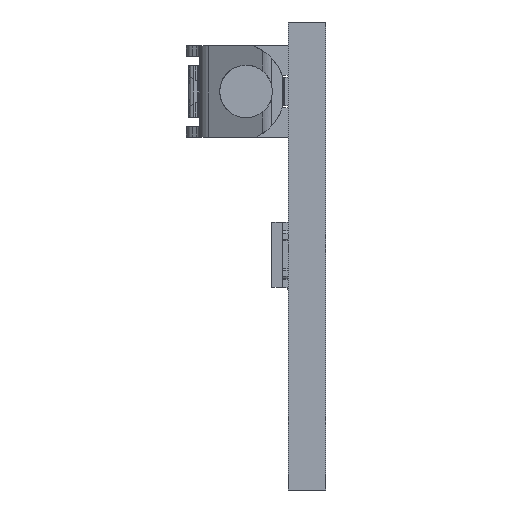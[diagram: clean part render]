
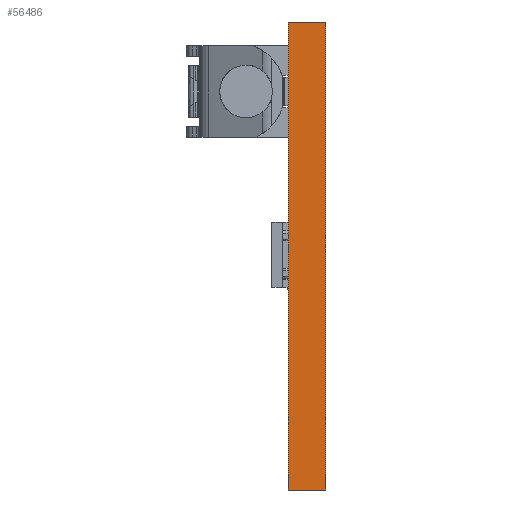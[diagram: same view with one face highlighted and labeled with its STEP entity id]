
A CAD part, left-side view. The second image highlights one B-rep face of the part: STEP entity #56486.
In plain terms, the highlighted planar face has unit normal (-1, 0, 0).
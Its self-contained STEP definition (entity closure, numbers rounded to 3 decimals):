
#6641=DIRECTION('',(0.,0.,1.));
#6642=VECTOR('',#6641,20.);
#6643=CARTESIAN_POINT('',(-160.287,0.,-10.));
#6644=LINE('',#6643,#6642);
#20747=DIRECTION('',(0.,0.,1.));
#20748=VECTOR('',#20747,20.);
#20749=CARTESIAN_POINT('',(-160.287,-1.6,-10.));
#20750=LINE('',#20749,#20748);
#20907=DIRECTION('',(0.,-1.,0.));
#20908=VECTOR('',#20907,1.6);
#20909=CARTESIAN_POINT('',(-160.287,0.,10.));
#20910=LINE('',#20909,#20908);
#20939=DIRECTION('',(0.,-1.,0.));
#20940=VECTOR('',#20939,1.6);
#20941=CARTESIAN_POINT('',(-160.287,0.,-10.));
#20942=LINE('',#20941,#20940);
#22757=CARTESIAN_POINT('',(-160.287,0.,-10.));
#22758=CARTESIAN_POINT('',(-160.287,0.,10.));
#22759=VERTEX_POINT('',#22757);
#22760=VERTEX_POINT('',#22758);
#22765=CARTESIAN_POINT('',(-160.287,-1.6,-10.));
#22766=CARTESIAN_POINT('',(-160.287,-1.6,10.));
#22767=VERTEX_POINT('',#22765);
#22768=VERTEX_POINT('',#22766);
#56474=CARTESIAN_POINT('',(-160.287,0.,-10.));
#56475=DIRECTION('',(-1.,0.,0.));
#56476=DIRECTION('',(0.,0.,1.));
#56477=AXIS2_PLACEMENT_3D('',#56474,#56475,#56476);
#56478=PLANE('',#56477);
#56479=ORIENTED_EDGE('',*,*,#28128,.T.);
#56480=ORIENTED_EDGE('',*,*,#56362,.T.);
#56481=ORIENTED_EDGE('',*,*,#56170,.F.);
#56483=ORIENTED_EDGE('',*,*,#56482,.F.);
#56484=EDGE_LOOP('',(#56479,#56480,#56481,#56483));
#56485=FACE_OUTER_BOUND('',#56484,.F.);
#28128=EDGE_CURVE('',#22759,#22760,#6644,.T.);
#56170=EDGE_CURVE('',#22767,#22768,#20750,.T.);
#56362=EDGE_CURVE('',#22760,#22768,#20910,.T.);
#56482=EDGE_CURVE('',#22759,#22767,#20942,.T.);
#56486=ADVANCED_FACE('',(#56485),#56478,.T.);
